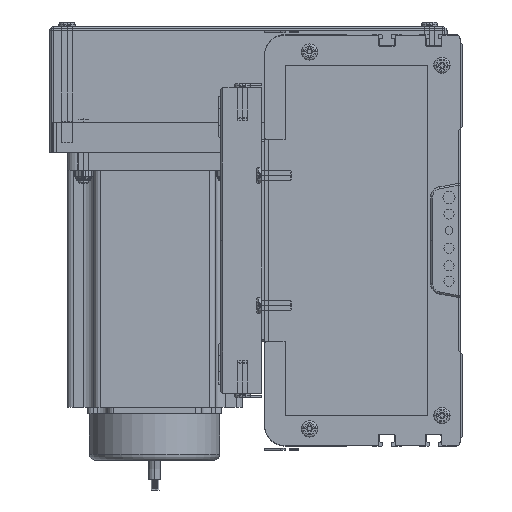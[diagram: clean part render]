
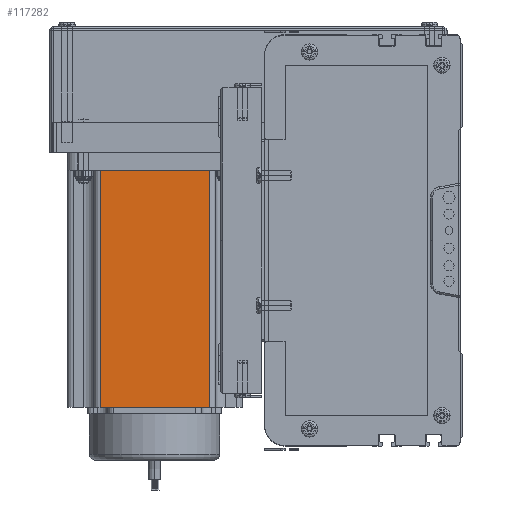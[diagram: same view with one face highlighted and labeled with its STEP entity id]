
A CAD part, left-side view. The second image highlights one B-rep face of the part: STEP entity #117282.
In plain terms, the highlighted planar face has unit normal (-1, 0, 0) as drawn and (0, -1, 0) by its records, which use the part's own axes.
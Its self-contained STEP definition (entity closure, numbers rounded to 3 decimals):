
#86187 = VECTOR ( 'NONE', #86273, 1000. ) ;
#86189 = CARTESIAN_POINT ( 'NONE',  ( 69.74, 0., 116.5 ) ) ;
#86191 = LINE ( 'NONE', #86189, #86187 ) ;
#86273 = DIRECTION ( 'NONE',  ( 0., 0., 1. ) ) ;
#86435 = CARTESIAN_POINT ( 'NONE',  ( 16.16, 0., 116.5 ) ) ;
#86605 = DIRECTION ( 'NONE',  ( 1., 0., 0. ) ) ;
#86606 = VECTOR ( 'NONE', #86605, 1000. ) ;
#86630 = CARTESIAN_POINT ( 'NONE',  ( 0., 0., 116.5 ) ) ;
#86631 = LINE ( 'NONE', #86630, #86606 ) ;
#87421 = DIRECTION ( 'NONE',  ( 0., 0., -1. ) ) ;
#87422 = VECTOR ( 'NONE', #87421, 1000. ) ;
#87424 = CARTESIAN_POINT ( 'NONE',  ( 16.16, 0., 116.5 ) ) ;
#87428 = LINE ( 'NONE', #87424, #87422 ) ;
#87553 = LINE ( 'NONE', #87814, #87685 ) ;
#87685 = VECTOR ( 'NONE', #87812, 1000. ) ;
#87763 = CARTESIAN_POINT ( 'NONE',  ( 69.74, 0., 0. ) ) ;
#87772 = FACE_OUTER_BOUND ( 'NONE', #116940, .T. ) ;
#87776 = AXIS2_PLACEMENT_3D ( 'NONE', #87945, #87937, #87935 ) ;
#87812 = DIRECTION ( 'NONE',  ( 1., 0., 0. ) ) ;
#87814 = CARTESIAN_POINT ( 'NONE',  ( 0., 0., 0. ) ) ;
#87817 = CARTESIAN_POINT ( 'NONE',  ( 16.16, 0., 0. ) ) ;
#87935 = DIRECTION ( 'NONE',  ( 0., 0., 1. ) ) ;
#87937 = DIRECTION ( 'NONE',  ( 0., 1., 0. ) ) ;
#87942 = PLANE ( 'NONE',  #87776 ) ;
#87945 = CARTESIAN_POINT ( 'NONE',  ( 0., 0., 116.5 ) ) ;
#87970 = CARTESIAN_POINT ( 'NONE',  ( 69.74, 0., 116.5 ) ) ;
#116940 = EDGE_LOOP ( 'NONE', ( #116973, #117164, #117281, #116978 ) ) ;
#116972 = VERTEX_POINT ( 'NONE', #86435 ) ;
#116973 = ORIENTED_EDGE ( 'NONE', *, *, #117240, .T. ) ;
#116975 = EDGE_CURVE ( 'NONE', #117277, #117341, #86191, .T. ) ;
#116978 = ORIENTED_EDGE ( 'NONE', *, *, #117228, .T. ) ;
#117164 = ORIENTED_EDGE ( 'NONE', *, *, #116975, .T. ) ;
#117188 = EDGE_CURVE ( 'NONE', #116972, #117341, #86631, .T. ) ;
#117228 = EDGE_CURVE ( 'NONE', #116972, #117246, #87428, .T. ) ;
#117240 = EDGE_CURVE ( 'NONE', #117246, #117277, #87553, .T. ) ;
#117246 = VERTEX_POINT ( 'NONE', #87817 ) ;
#117277 = VERTEX_POINT ( 'NONE', #87763 ) ;
#117281 = ORIENTED_EDGE ( 'NONE', *, *, #117188, .F. ) ;
#117282 = ADVANCED_FACE ( 'NONE', ( #87772 ), #87942, .F. ) ;
#117341 = VERTEX_POINT ( 'NONE', #87970 ) ;
